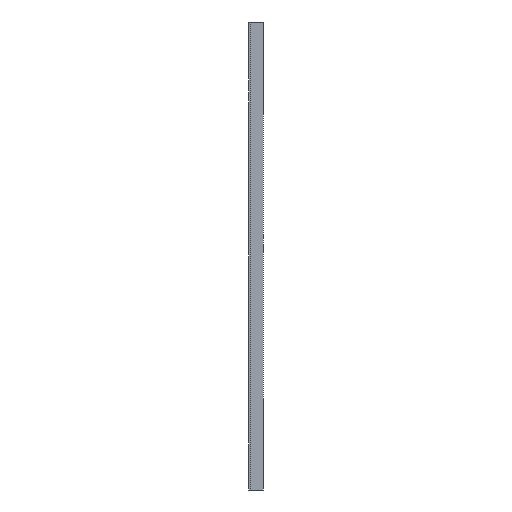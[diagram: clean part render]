
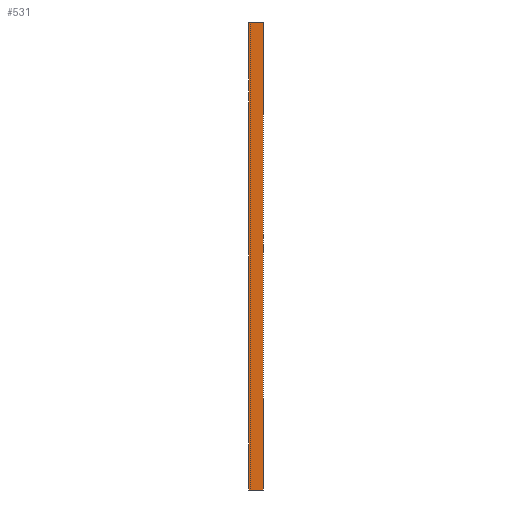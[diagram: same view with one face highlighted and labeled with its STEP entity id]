
A CAD part, left-side view. The second image highlights one B-rep face of the part: STEP entity #531.
In plain terms, the highlighted planar face has unit normal (-1, 0, 0).
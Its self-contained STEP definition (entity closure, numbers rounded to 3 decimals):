
#52 = CARTESIAN_POINT ( 'NONE',  ( -505.5, -20., 30. ) ) ;
#62 = VECTOR ( 'NONE', #1125, 1000. ) ;
#71 = CARTESIAN_POINT ( 'NONE',  ( -505.5, 0., -634. ) ) ;
#80 = CARTESIAN_POINT ( 'NONE',  ( -505.5, 0., -634. ) ) ;
#159 = DIRECTION ( 'NONE',  ( 0., 0., 1. ) ) ;
#171 = EDGE_CURVE ( 'NONE', #434, #374, #396, .T. ) ;
#329 = VECTOR ( 'NONE', #430, 1000. ) ;
#374 = VERTEX_POINT ( 'NONE', #775 ) ;
#396 = LINE ( 'NONE', #71, #911 ) ;
#415 = CARTESIAN_POINT ( 'NONE',  ( -505.5, -20., 30. ) ) ;
#430 = DIRECTION ( 'NONE',  ( 0., 0., 1. ) ) ;
#434 = VERTEX_POINT ( 'NONE', #80 ) ;
#442 = EDGE_LOOP ( 'NONE', ( #1100, #787, #812, #605 ) ) ;
#470 = DIRECTION ( 'NONE',  ( -1., 0., 0. ) ) ;
#486 = FACE_OUTER_BOUND ( 'NONE', #442, .T. ) ;
#531 = ADVANCED_FACE ( 'NONE', ( #486 ), #670, .T. ) ;
#605 = ORIENTED_EDGE ( 'NONE', *, *, #958, .T. ) ;
#670 = PLANE ( 'NONE',  #781 ) ;
#683 = VECTOR ( 'NONE', #880, 1000. ) ;
#775 = CARTESIAN_POINT ( 'NONE',  ( -505.5, 0., 30. ) ) ;
#781 = AXIS2_PLACEMENT_3D ( 'NONE', #994, #470, #1000 ) ;
#787 = ORIENTED_EDGE ( 'NONE', *, *, #1002, .F. ) ;
#812 = ORIENTED_EDGE ( 'NONE', *, *, #924, .T. ) ;
#818 = VERTEX_POINT ( 'NONE', #52 ) ;
#867 = LINE ( 'NONE', #947, #329 ) ;
#869 = VERTEX_POINT ( 'NONE', #1044 ) ;
#880 = DIRECTION ( 'NONE',  ( 0., 1., 0. ) ) ;
#894 = LINE ( 'NONE', #1057, #683 ) ;
#911 = VECTOR ( 'NONE', #159, 1000. ) ;
#924 = EDGE_CURVE ( 'NONE', #869, #818, #867, .T. ) ;
#947 = CARTESIAN_POINT ( 'NONE',  ( -505.5, -20., -634. ) ) ;
#958 = EDGE_CURVE ( 'NONE', #818, #374, #1041, .T. ) ;
#994 = CARTESIAN_POINT ( 'NONE',  ( -505.5, -20., -634. ) ) ;
#1000 = DIRECTION ( 'NONE',  ( 0., 0., 1. ) ) ;
#1002 = EDGE_CURVE ( 'NONE', #869, #434, #894, .T. ) ;
#1041 = LINE ( 'NONE', #415, #62 ) ;
#1044 = CARTESIAN_POINT ( 'NONE',  ( -505.5, -20., -634. ) ) ;
#1057 = CARTESIAN_POINT ( 'NONE',  ( -505.5, -20., -634. ) ) ;
#1100 = ORIENTED_EDGE ( 'NONE', *, *, #171, .F. ) ;
#1125 = DIRECTION ( 'NONE',  ( 0., 1., 0. ) ) ;
